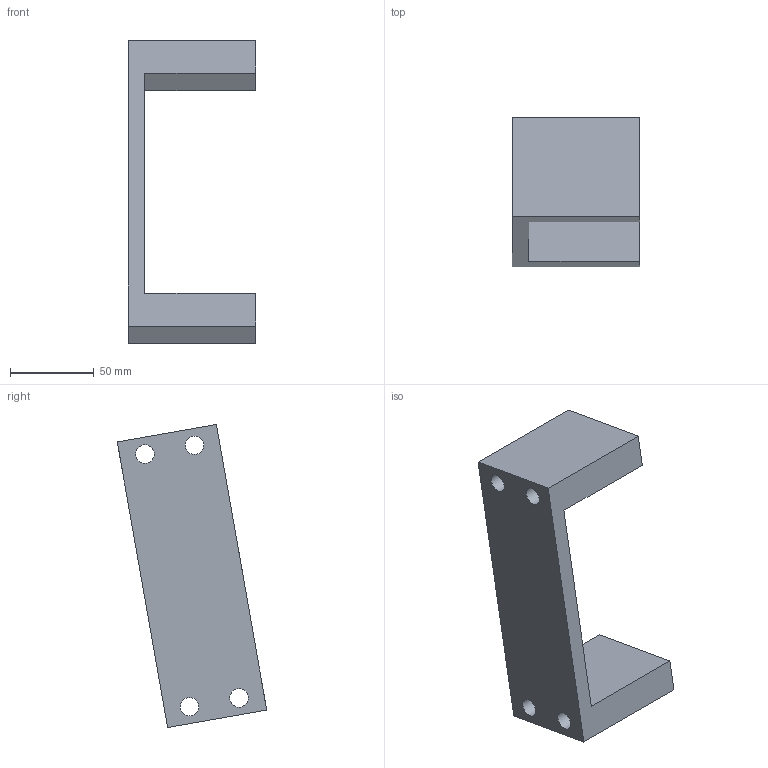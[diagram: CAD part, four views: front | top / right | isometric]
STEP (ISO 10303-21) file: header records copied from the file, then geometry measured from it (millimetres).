
FILE_DESCRIPTION(('golf model'),'2;1');
FILE_NAME('golf','',(''),(''),'golf_step_io','golf','');
FILE_SCHEMA(('AUTOMOTIVE_DESIGN { 1 0 10303 214 1 1 1 1 }'));
Length unit declared in the file: millimetre
Products named in the file (2): ASSEMBLY; z_axis.clamp_0_base
Assembly tree (1 placements, depth 2):
  ASSEMBLY
    z_axis.clamp_0_base
Bounding box: 76 x 89.13 x 180.79 mm (x, y, z)
Volume: 214713.7 mm3; surface area: 59143.6 mm2
Topology: 1 solids, 1 shells, 26 faces, 64 edges, 46 vertices
Faces by surface type: plane 16, cylinder 10
Full cylindrical faces by diameter (mm): 8.4 x2, 11 x4, 17 x4
Entity records: 698 total; most frequent: DIRECTION 120, CARTESIAN_POINT 108, ORIENTED_EDGE 88, EDGE_LOOP 50, AXIS2_PLACEMENT_3D 48, EDGE_CURVE 44, FACE_BOUND 43, VERTEX_POINT 36
